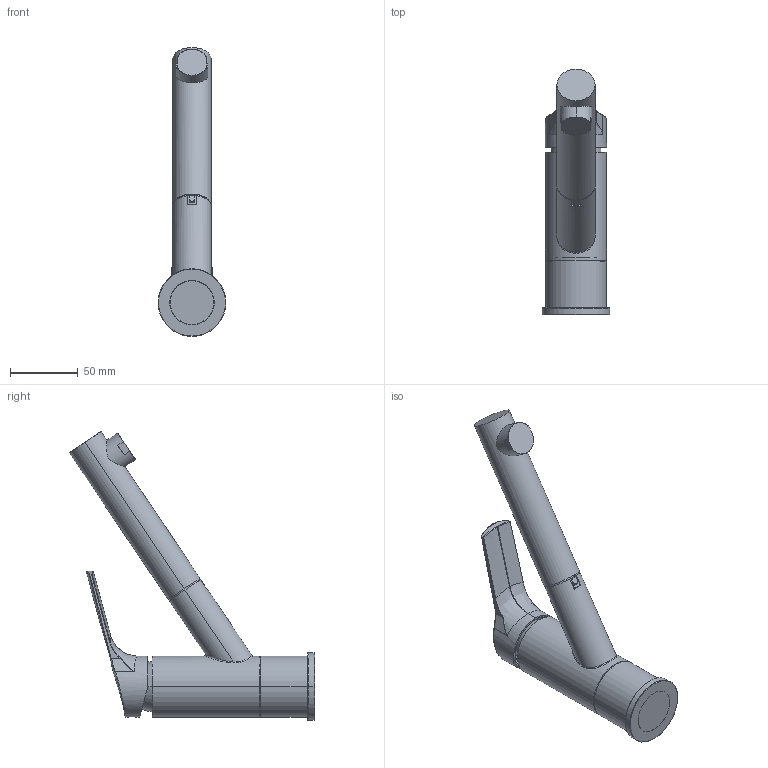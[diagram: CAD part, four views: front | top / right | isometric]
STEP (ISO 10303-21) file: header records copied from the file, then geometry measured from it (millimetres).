
FILE_DESCRIPTION((''),'2;1');
FILE_NAME('F3768_FILE_3D','2014-12-18T',('ivanv'),(''),'PRO/ENGINEER BY PARAMETRIC TECHNOLOGY CORPORATION, 2012130','PRO/ENGINEER BY PARAMETRIC TECHNOLOGY CORPORATION, 2012130','');
FILE_SCHEMA(('CONFIG_CONTROL_DESIGN'));
Length unit declared in the file: millimetre
Products named in the file (1): F3768_FILE_3D
Bounding box: 49.8 x 180.3 x 212.54 mm (x, y, z)
Volume: 169043.5 mm3; surface area: 82352.6 mm2
Topology: 4 solids, 4 shells, 545 faces, 1413 edges, 889 vertices
Faces by surface type: plane 284, cylinder 92, bspline 70, cone 33, torus 28, extrusion 23, sphere 15
Entity records: 22371 total; most frequent: CARTESIAN_POINT 9558, ORIENTED_EDGE 2822, DIRECTION 2393, EDGE_CURVE 1411, VERTEX_POINT 889, VECTOR 865, LINE 842, AXIS2_PLACEMENT_3D 764
